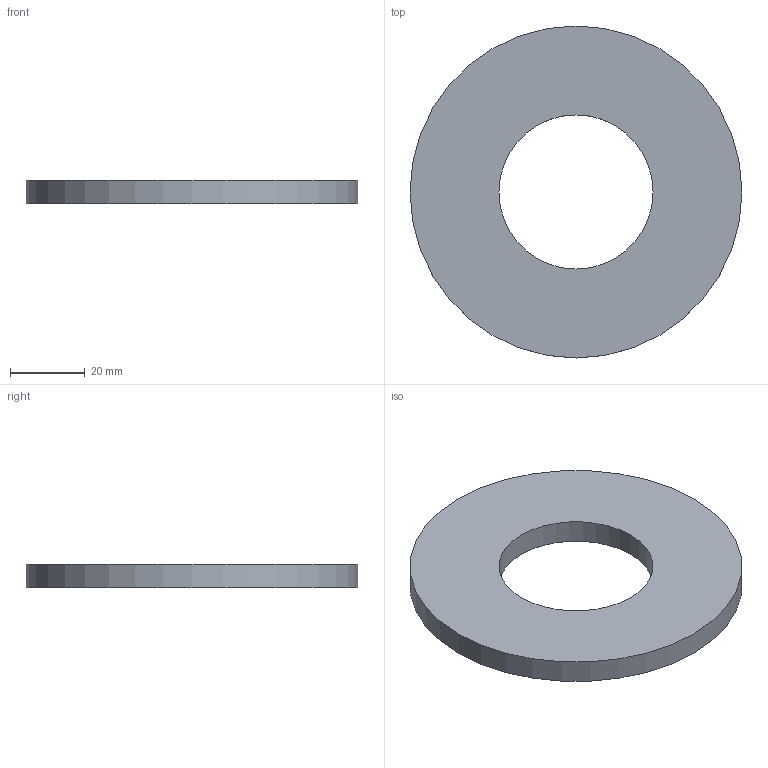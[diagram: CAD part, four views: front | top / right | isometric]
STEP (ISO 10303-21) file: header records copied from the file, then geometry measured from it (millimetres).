
FILE_DESCRIPTION(/* description */ (''),/* implementation_level */ '2;1');
FILE_NAME(/* name */ 'C:\001_Work\Designs\HLW\HLW-1.500.stp',/* time_stamp */ '2015-09-04T08:58:20-04:00',/* author */ ('rramoutar'),/* organization */ ('Mason Industries Inc.'),/* preprocessor_version */ 'ST-DEVELOPER v15.6',/* originating_system */ 'Autodesk Inventor 2015',/* authorisation */ '');
FILE_SCHEMA (('AUTOMOTIVE_DESIGN { 1 0 10303 214 3 1 1 }'));
Length unit declared in the file: inch
Products named in the file (1): HLW-1.500
Bounding box: 88.9 x 88.9 x 6.35 mm (x, y, z)
Volume: 30919.1 mm3; surface area: 12335.2 mm2
Topology: 1 solids, 1 shells, 4 faces, 6 edges, 4 vertices
Faces by surface type: cylinder 2, plane 2
Full cylindrical faces by diameter (mm): 41.275 x1, 88.9 x1
Entity records: 114 total; most frequent: DIRECTION 18, CARTESIAN_POINT 13, AXIS2_PLACEMENT_3D 9, EDGE_LOOP 8, ORIENTED_EDGE 8, FACE_BOUND 4, FACE_OUTER_BOUND 4, CIRCLE 4
